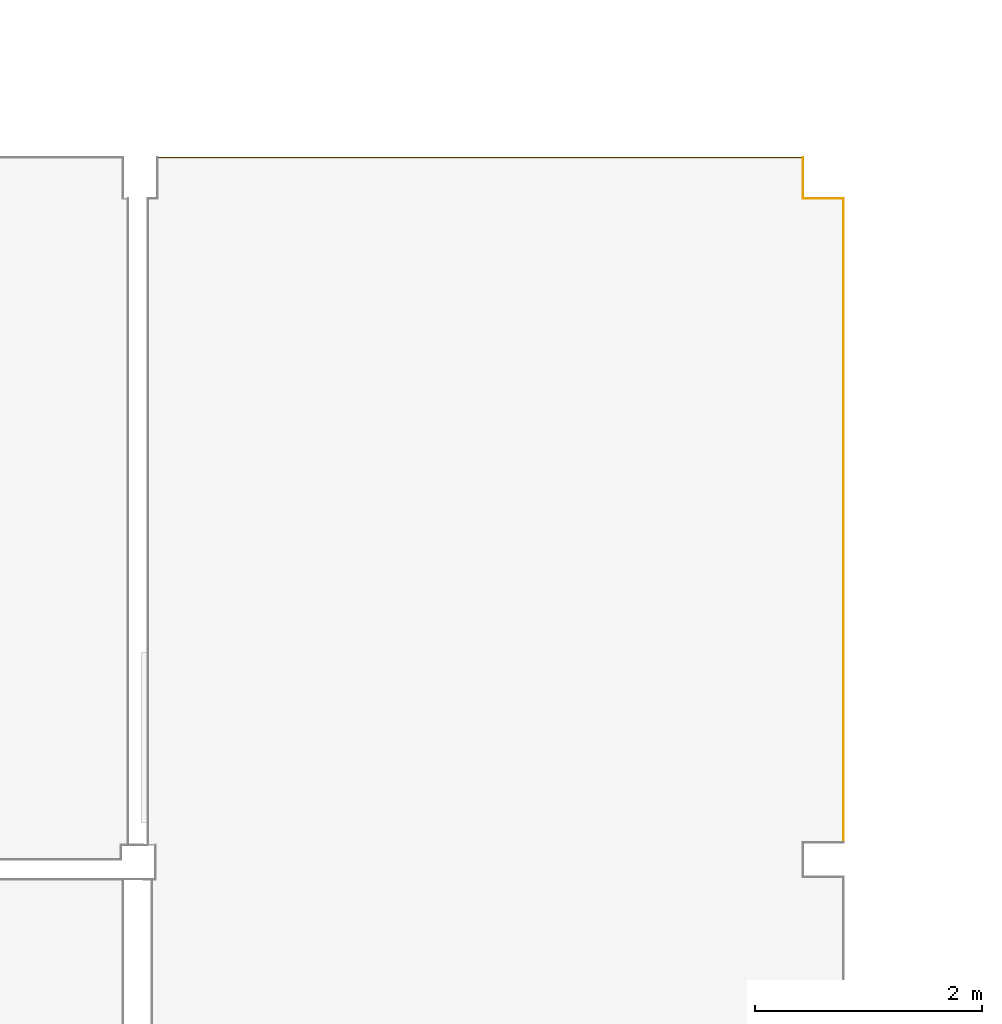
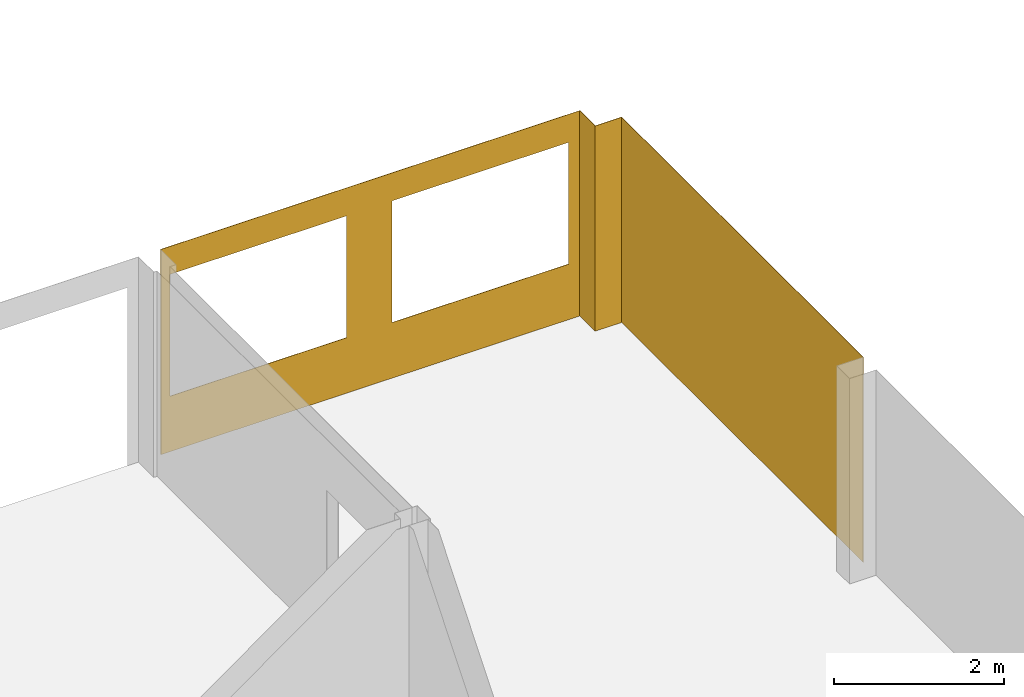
# One storey, part 25 of 33: 4 coverings, 2 openings.
"""IFC2X3 building model written with IfcOpenShell, lengths in millimetres."""

from ifc_helpers import new_model, entity, si_unit, converted_unit, derived_unit, money_unit, direction, frame, origin_with_axes, origin_2d_with_axis, place, context, subcontext, project, spatial, polyline, rectangle, outline, extrude, material, type_object, element, save


model = new_model("IFC2X3")

# Units and contexts
model_context = context("Model", 3, precision=0.01, world=origin_with_axes(), true_north=direction((0.0, 1.0)))
body_context = subcontext(model_context, "Body", "Model", "MODEL_VIEW")
ifc_project = project(units=[si_unit("LENGTHUNIT", "METRE", prefix="MILLI"), si_unit("AREAUNIT", "SQUARE_METRE"), si_unit("VOLUMEUNIT", "CUBIC_METRE"), converted_unit("PLANEANGLEUNIT", "DEGREE", entity("IfcPlaneAngleMeasure", 0.0174532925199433), si_unit("PLANEANGLEUNIT", "RADIAN"), dimensions=[0, 0, 0, 0, 0, 0, 0]), money_unit("EUR"), converted_unit("TIMEUNIT", "Year", entity("IfcTimeMeasure", 31556926.0), si_unit("TIMEUNIT", "SECOND"), dimensions=[0, 0, 1, 0, 0, 0, 0]), si_unit("MASSUNIT", "GRAM", prefix="KILO"), si_unit("THERMODYNAMICTEMPERATUREUNIT", "DEGREE_CELSIUS"), si_unit("LUMINOUSINTENSITYUNIT", "LUMEN"), si_unit("ENERGYUNIT", "JOULE", prefix="MEGA"), derived_unit("THERMALCONDUCTANCEUNIT", [(si_unit("POWERUNIT", "WATT"), 1), (si_unit("LENGTHUNIT", "METRE"), -1), (si_unit("THERMODYNAMICTEMPERATUREUNIT", "KELVIN"), -1)]), derived_unit("SPECIFICHEATCAPACITYUNIT", [(si_unit("ENERGYUNIT", "JOULE"), 1), (si_unit("MASSUNIT", "GRAM", prefix="KILO"), -1), (si_unit("THERMODYNAMICTEMPERATUREUNIT", "KELVIN"), -1)]), derived_unit("MASSDENSITYUNIT", [(si_unit("MASSUNIT", "GRAM", prefix="KILO"), 1), (si_unit("VOLUMEUNIT", "CUBIC_METRE"), -1)])], contexts=[model_context])

# Site, building, storey
site_placement = place(None, origin_with_axes())
site = spatial("IfcSite", under=ifc_project, at=site_placement, Name="Paldiski mnt 245/1, Tallinn, Harjumaa", CompositionType="COMPLEX")
building_placement = place(site_placement, origin_with_axes())
building = spatial("IfcBuilding", under=site, at=building_placement, Name="RKAS Hoone üldnimetus (kasutust iseloomustav) -> IFC Project Manager -> SOLIBRI", CompositionType="ELEMENT")
storey_placement = place(building_placement, origin_with_axes())
storey = spatial("IfcBuildingStorey", under=building, at=storey_placement, Name="Esimene korrus", CompositionType="ELEMENT", Elevation=0.0)

# Covering, openings
ifc_material_1 = material(Name="SA- Värv SM5(valge)")
covering_type_1 = type_object("IfcCoveringType", Name="SA- Värv SM5(valge) 5", PredefinedType="CLADDING")
covering_1_placement = place(storey_placement, frame((-17590.00000000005, -107.9999999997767, 0.0), z_axis=(0.0, 0.0, 1.0), x_axis=(-1.0, 0.0, 0.0)))
covering_1 = element("IfcCovering", 1, at=covering_1_placement, inside=storey, type_object=covering_type_1, material=ifc_material_1, Name="SM5", PredefinedType="CLADDING", context=body_context, shape_type="SweptSolid", body=[
    extrude(outline(polyline([(0.0, 0.0), (5699.999999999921, 0.0), (5699.999999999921, 5.000000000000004), (0.0, 5.000000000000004), (0.0, 0.0)])), origin_with_axes(), (0.0, 0.0, 1.0), 2950.0),
])
opening_1_placement = place(covering_1_placement, frame((-17590.00000000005, -107.9999999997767, 0.0), z_axis=(0.0, 0.0, 1.0), x_axis=(-1.0, 0.0, 0.0)))
element("IfcOpeningElement", 2, at=opening_1_placement, cuts=covering_1, Name="AVA", ObjectType="OPENING", context=body_context, shape_type="SweptSolid", body=[
    extrude(rectangle(XDim=2398.903677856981, YDim=1750.0, at=origin_2d_with_axis()), frame((-18947.3057350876, -102.9999999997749, 1672.917671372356), z_axis=(0.0, 1.0, 0.0), x_axis=(-1.0, 0.0, 0.0)), (0.0, 0.0, -1.0), 15.00000000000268),
])
opening_2_placement = place(covering_1_placement, frame((-17590.00000000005, -107.9999999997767, 0.0), z_axis=(0.0, 0.0, 1.0), x_axis=(-1.0, 0.0, 0.0)))
element("IfcOpeningElement", 3, at=opening_2_placement, cuts=covering_1, Name="AVA", ObjectType="OPENING", context=body_context, shape_type="SweptSolid", body=[
    extrude(rectangle(XDim=2398.903677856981, YDim=1750.0, at=origin_2d_with_axis()), frame((-21963.99462665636, -102.9999999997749, 1672.917671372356), z_axis=(0.0, 1.0, 0.0), x_axis=(-1.0, 0.0, 0.0)), (0.0, 0.0, -1.0), 15.00000000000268),
])

# Coverings
ifc_material_2 = material(Name="SA- Värv SM12(tolmutõke)")
covering_type_2 = type_object("IfcCoveringType", Name="SA- Värv SM12(tolmutõke) 5", PredefinedType="CLADDING")
covering_2_placement = place(storey_placement, frame((-17230.00000000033, -6159.999999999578, 0.0), z_axis=(0.0, 0.0, 1.0), x_axis=(0.0, 1.0, 0.0)))
element("IfcCovering", 4, at=covering_2_placement, inside=storey, type_object=covering_type_2, material=ifc_material_2, Name="SM12", PredefinedType="CLADDING", context=body_context, shape_type="SweptSolid", body=[
    extrude(outline(polyline([(0.0, 0.0), (5689.999999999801, 0.0), (5689.999999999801, 4.999999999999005), (0.0, 4.999999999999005), (0.0, 0.0)])), origin_with_axes(), (0.0, 0.0, 1.0), 2950.0),
])
covering_3_placement = place(storey_placement, frame((-17230.00000000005, -469.9999999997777, 0.0), z_axis=(0.0, 0.0, 1.0), x_axis=(-1.0, 0.0, 0.0)))
element("IfcCovering", 5, at=covering_3_placement, inside=storey, type_object=covering_type_2, material=ifc_material_2, Name="SM12", PredefinedType="CLADDING", context=body_context, shape_type="SweptSolid", body=[
    extrude(outline(polyline([(0.0, 0.0), (359.9999999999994, 0.0), (364.9999999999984, 5.000000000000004), (0.0, 5.000000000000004), (0.0, 0.0)])), origin_with_axes(), (0.0, 0.0, 1.0), 2950.0),
])
covering_4_placement = place(storey_placement, frame((-17590.00000000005, -469.9999999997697, 0.0), z_axis=(0.0, 0.0, 1.0), x_axis=(0.0, 1.0, 0.0)))
element("IfcCovering", 6, at=covering_4_placement, inside=storey, type_object=covering_type_2, material=ifc_material_2, Name="SM12", PredefinedType="CLADDING", context=body_context, shape_type="SweptSolid", body=[
    extrude(outline(polyline([(0.0, 0.0), (362.0000000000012, 0.0), (362.0000000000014, 4.999999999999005), (-4.999999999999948, 4.999999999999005), (0.0, 0.0)])), origin_with_axes(), (0.0, 0.0, 1.0), 2950.0),
])

save(model, "model.ifc")
